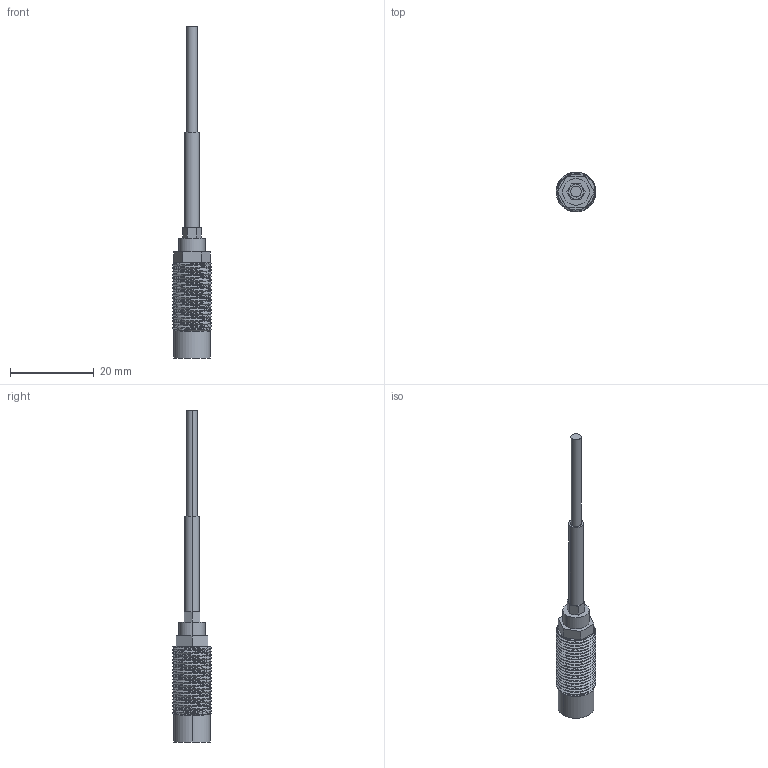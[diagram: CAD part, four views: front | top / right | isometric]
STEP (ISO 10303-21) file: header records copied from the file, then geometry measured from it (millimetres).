
FILE_DESCRIPTION (( 'STEP AP203' ), '1' );
FILE_NAME ('9U.STEP', '2010-03-05T18:56:11', ( 'tom edwards' ), ( 'Tom J. Edwards' ), 'SwSTEP 2.0', 'SolidWorks 2008', '' );
FILE_SCHEMA (( 'CONFIG_CONTROL_DESIGN' ));
Length unit declared in the file: inch
Products named in the file (1): 9U
Bounding box: 9.53 x 9.52 x 79.5 mm (x, y, z)
Volume: 2051.6 mm3; surface area: 1682.6 mm2
Topology: 1 solids, 1 shells, 78 faces, 209 edges, 138 vertices
Faces by surface type: cylinder 49, plane 23, cone 3, bspline 3
Entity records: 7496 total; most frequent: CARTESIAN_POINT 5734, ORIENTED_EDGE 418, DIRECTION 283, EDGE_CURVE 209, VERTEX_POINT 138, AXIS2_PLACEMENT_3D 96, VECTOR 91, LINE 91
